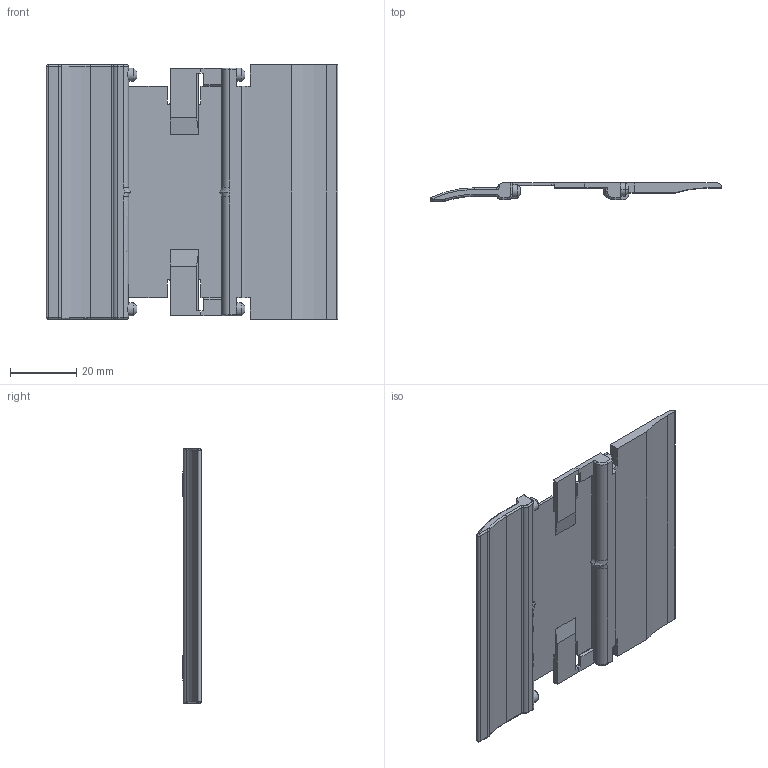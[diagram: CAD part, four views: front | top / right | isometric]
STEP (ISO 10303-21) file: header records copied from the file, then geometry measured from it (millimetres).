
FILE_DESCRIPTION((''),'2;1');
FILE_NAME('C:\Uebbing\PARAMETERKETTEN\KOLIBRI\Kol_65_095_5\Kol_65_095_5 Klappdeckel.stp','2012-03-06T08:31:16',('Uebbing'),(''),'Autodesk Inventor 10','Autodesk Inventor 10','');
FILE_SCHEMA(('AUTOMOTIVE_DESIGN { 1 0 10303 214 1 1 1 1 }'));
Length unit declared in the file: millimetre
Products named in the file (1): Kol_65_095_5 Klappdeckel
Bounding box: 87.8 x 5.6 x 76.6 mm (x, y, z)
Volume: 14646.7 mm3; surface area: 14410.6 mm2
Topology: 1 solids, 1 shells, 184 faces, 492 edges, 312 vertices
Faces by surface type: bspline 82, plane 58, cylinder 31, torus 10, cone 3
Full cylindrical faces by diameter (mm): 4 x1
Entity records: 6371 total; most frequent: CARTESIAN_POINT 1994, ORIENTED_EDGE 972, DIRECTION 816, EDGE_CURVE 486, VECTOR 334, LINE 334, VERTEX_POINT 310, AXIS2_PLACEMENT_3D 241
